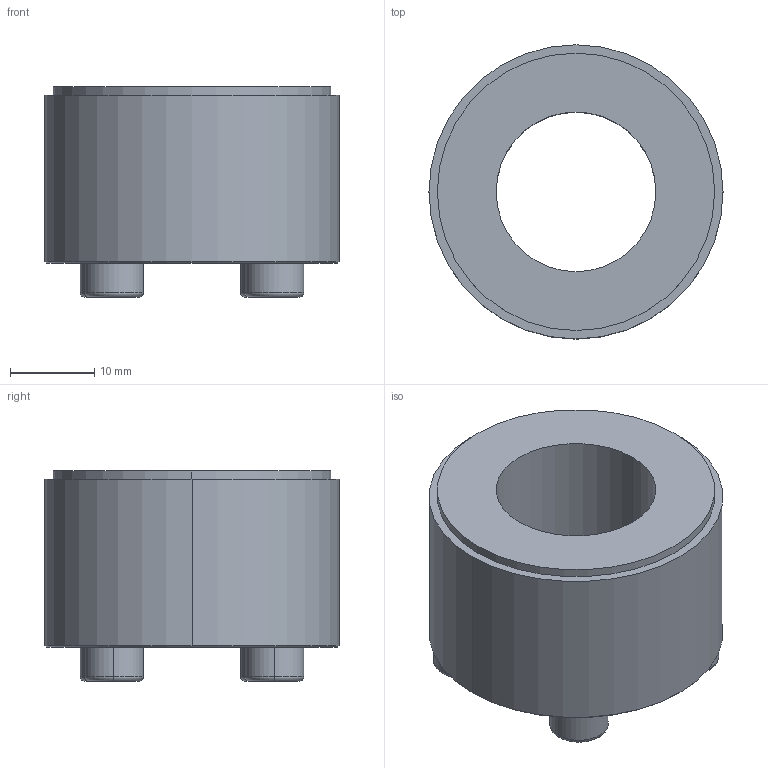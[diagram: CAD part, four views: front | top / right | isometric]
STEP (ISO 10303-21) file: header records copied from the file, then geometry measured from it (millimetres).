
FILE_DESCRIPTION (( 'STEP AP203' ), '1' );
FILE_NAME ('PL-B 19-35.STEP', '2021-10-22T07:46:06', ( '' ), ( '' ), 'SwSTEP 2.0', 'SolidWorks 2018', '' );
FILE_SCHEMA (( 'CONFIG_CONTROL_DESIGN' ));
Length unit declared in the file: millimetre
Products named in the file (1): PL-B 19-35
Bounding box: 35 x 35 x 25 mm (x, y, z)
Volume: 14688.9 mm3; surface area: 5309.3 mm2
Topology: 1 solids, 1 shells, 61 faces, 138 edges, 88 vertices
Faces by surface type: plane 35, cylinder 14, torus 8, cone 4
Entity records: 1785 total; most frequent: DIRECTION 310, CARTESIAN_POINT 288, ORIENTED_EDGE 276, EDGE_CURVE 138, AXIS2_PLACEMENT_3D 110, VECTOR 90, LINE 90, VERTEX_POINT 88
